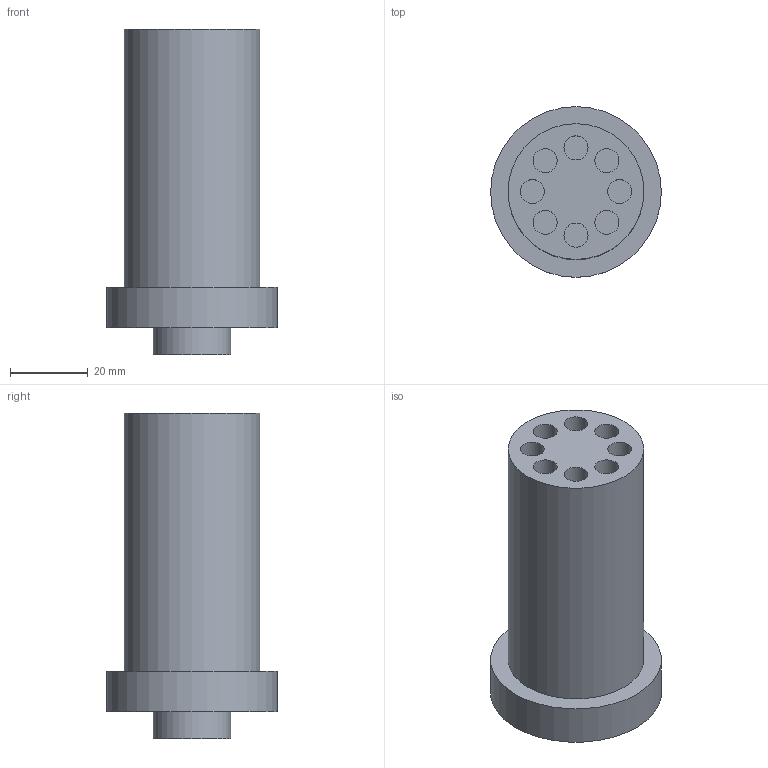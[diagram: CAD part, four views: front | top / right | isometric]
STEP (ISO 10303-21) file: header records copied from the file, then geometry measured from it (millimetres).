
FILE_DESCRIPTION(/* description */ (''),/* implementation_level */ '2;1');
FILE_NAME(/* name */ 'base-spindle.step',/* time_stamp */ '2026-06-03T23:44:53+01:00',/* author */ (''),/* organization */ (''),/* preprocessor_version */ 'ST-DEVELOPER v20.1',/* originating_system */ 'Autodesk Translation Framework v15.8.0.0',/* authorisation */ '');
FILE_SCHEMA (('AUTOMOTIVE_DESIGN { 1 0 10303 214 3 1 1 }'));
Length unit declared in the file: millimetre
Products named in the file (1): base-spindle
Bounding box: 44 x 44 x 84 mm (x, y, z)
Volume: 76559.9 mm3; surface area: 15847.8 mm2
Topology: 1 solids, 1 shells, 35 faces, 51 edges, 34 vertices
Faces by surface type: plane 18, cylinder 17
Full cylindrical faces by diameter (mm): 6.2 x14, 20 x1, 35 x1, 44 x1
Entity records: 812 total; most frequent: DIRECTION 157, CARTESIAN_POINT 121, ORIENTED_EDGE 102, AXIS2_PLACEMENT_3D 70, EDGE_LOOP 51, EDGE_CURVE 51, FACE_OUTER_BOUND 35, ADVANCED_FACE 35
